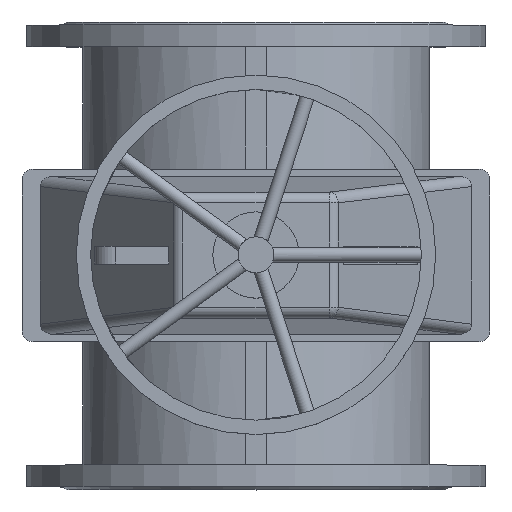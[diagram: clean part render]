
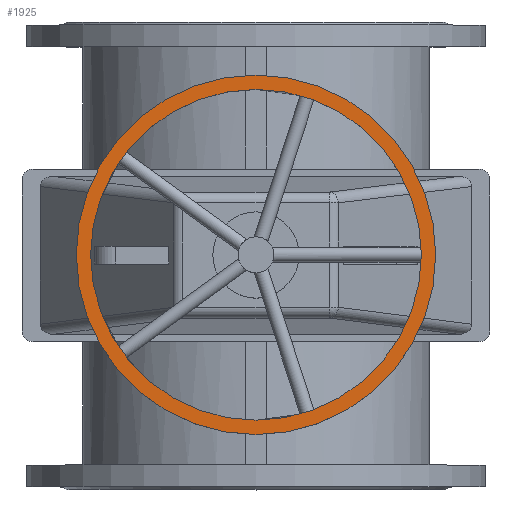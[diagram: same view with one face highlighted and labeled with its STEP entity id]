
A CAD part, top view. The second image highlights one B-rep face of the part: STEP entity #1925.
In plain terms, the highlighted planar face has unit normal (0, 0, 1).
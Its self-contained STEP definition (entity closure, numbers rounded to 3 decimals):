
#1925=ADVANCED_FACE('',(#4552,#4554),#4556,.T.);
#4552=FACE_BOUND('',#4553,.T.);
#4553=EDGE_LOOP('',(#5529));
#4554=FACE_BOUND('',#4555,.T.);
#4555=EDGE_LOOP('',(#5530));
#4556=PLANE('',#4557);
#4557=AXIS2_PLACEMENT_3D('',#4558,#4559,#4560);
#4558=CARTESIAN_POINT('',(0.,0.,946.5));
#4559=DIRECTION('',(0.,0.,1.));
#4560=DIRECTION('',(0.,-1.,0.));
#5529=ORIENTED_EDGE('',*,*,#6011,.T.);
#5530=ORIENTED_EDGE('',*,*,#6009,.T.);
#6009=EDGE_CURVE('',#6823,#6823,#6824,.F.);
#6011=EDGE_CURVE('',#6827,#6827,#6828,.T.);
#6823=VERTEX_POINT('',#10377);
#6824=CIRCLE('',#10378,230.);
#6827=VERTEX_POINT('',#10387);
#6828=CIRCLE('',#10388,250.);
#10377=CARTESIAN_POINT('',(0.,-230.,946.5));
#10378=AXIS2_PLACEMENT_3D('',#10379,#10380,#10381);
#10379=CARTESIAN_POINT('',(0.,0.,946.5));
#10380=DIRECTION('',(0.,0.,1.));
#10381=DIRECTION('',(0.,-1.,0.));
#10387=CARTESIAN_POINT('',(0.,-250.,946.5));
#10388=AXIS2_PLACEMENT_3D('',#10389,#10390,#10391);
#10389=CARTESIAN_POINT('',(0.,0.,946.5));
#10390=DIRECTION('',(0.,0.,1.));
#10391=DIRECTION('',(0.,-1.,0.));
